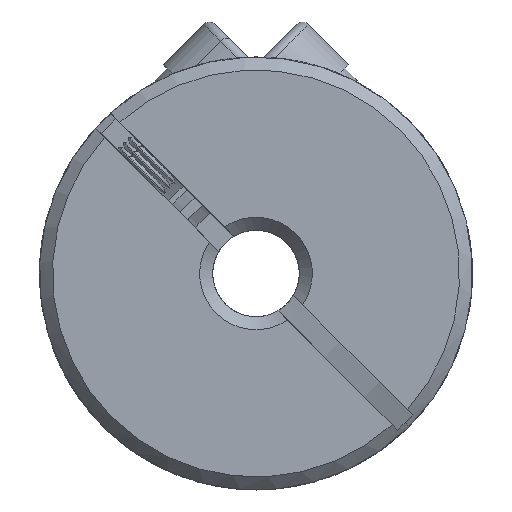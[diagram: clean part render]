
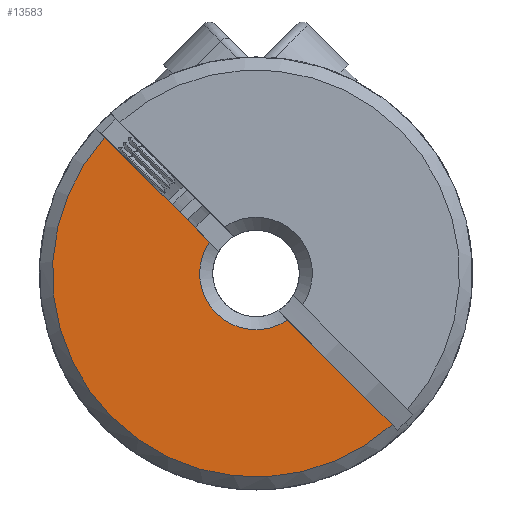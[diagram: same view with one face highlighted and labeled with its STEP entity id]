
A CAD part, front view. The second image highlights one B-rep face of the part: STEP entity #13583.
In plain terms, the highlighted planar face has unit normal (0, -1, 0).
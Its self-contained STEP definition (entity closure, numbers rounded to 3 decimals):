
#30 = VERTEX_POINT ( 'NONE', #7197 ) ;
#589 = CARTESIAN_POINT ( 'NONE',  ( -2.158, -11.2, 1.451 ) ) ;
#1596 = CARTESIAN_POINT ( 'NONE',  ( 45.083, -11.2, 25.627 ) ) ;
#1834 = CIRCLE ( 'NONE', #10795, 2.6 ) ;
#1877 = DIRECTION ( 'NONE',  ( -0.707, 0., 0.707 ) ) ;
#2421 = CARTESIAN_POINT ( 'NONE',  ( 0., -11.2, 0. ) ) ;
#2873 = AXIS2_PLACEMENT_3D ( 'NONE', #1596, #9524, #9568 ) ;
#3868 = VECTOR ( 'NONE', #1877, 1000. ) ;
#4033 = DIRECTION ( 'NONE',  ( 0., 1., 0. ) ) ;
#4113 = VECTOR ( 'NONE', #8674, 1000. ) ;
#4678 = EDGE_CURVE ( 'NONE', #6577, #30, #13670, .T. ) ;
#4728 = ORIENTED_EDGE ( 'NONE', *, *, #4678, .T. ) ;
#4849 = LINE ( 'NONE', #13534, #4113 ) ;
#5486 = ORIENTED_EDGE ( 'NONE', *, *, #6282, .T. ) ;
#6282 = EDGE_CURVE ( 'NONE', #30, #14071, #6942, .T. ) ;
#6577 = VERTEX_POINT ( 'NONE', #14077 ) ;
#6942 = LINE ( 'NONE', #8645, #3868 ) ;
#7037 = FACE_OUTER_BOUND ( 'NONE', #8714, .T. ) ;
#7181 = ORIENTED_EDGE ( 'NONE', *, *, #11398, .T. ) ;
#7197 = CARTESIAN_POINT ( 'NONE',  ( 6.284, -11.2, -6.991 ) ) ;
#7325 = CARTESIAN_POINT ( 'NONE',  ( 0., -11.2, 0. ) ) ;
#8401 = VERTEX_POINT ( 'NONE', #589 ) ;
#8491 = PLANE ( 'NONE',  #2873 ) ;
#8645 = CARTESIAN_POINT ( 'NONE',  ( -8.839, -11.2, 8.132 ) ) ;
#8674 = DIRECTION ( 'NONE',  ( -0.707, 0., 0.707 ) ) ;
#8714 = EDGE_LOOP ( 'NONE', ( #14027, #4728, #5486, #7181 ) ) ;
#9524 = DIRECTION ( 'NONE',  ( 0., -1., 0. ) ) ;
#9568 = DIRECTION ( 'NONE',  ( -0.707, 0., 0.707 ) ) ;
#10373 = DIRECTION ( 'NONE',  ( 0., -1., 0. ) ) ;
#10535 = DIRECTION ( 'NONE',  ( -0.707, 0., 0.707 ) ) ;
#10795 = AXIS2_PLACEMENT_3D ( 'NONE', #7325, #4033, #12007 ) ;
#11398 = EDGE_CURVE ( 'NONE', #14071, #8401, #1834, .T. ) ;
#12007 = DIRECTION ( 'NONE',  ( -0.707, 0., 0.707 ) ) ;
#12921 = CARTESIAN_POINT ( 'NONE',  ( 1.451, -11.2, -2.158 ) ) ;
#13534 = CARTESIAN_POINT ( 'NONE',  ( 0.205, -11.2, -0.912 ) ) ;
#13583 = ADVANCED_FACE ( 'NONE', ( #7037 ), #8491, .T. ) ;
#13670 = CIRCLE ( 'NONE', #14758, 9.4 ) ;
#14027 = ORIENTED_EDGE ( 'NONE', *, *, #14326, .T. ) ;
#14071 = VERTEX_POINT ( 'NONE', #12921 ) ;
#14077 = CARTESIAN_POINT ( 'NONE',  ( -6.991, -11.2, 6.284 ) ) ;
#14326 = EDGE_CURVE ( 'NONE', #8401, #6577, #4849, .T. ) ;
#14758 = AXIS2_PLACEMENT_3D ( 'NONE', #2421, #10373, #10535 ) ;
